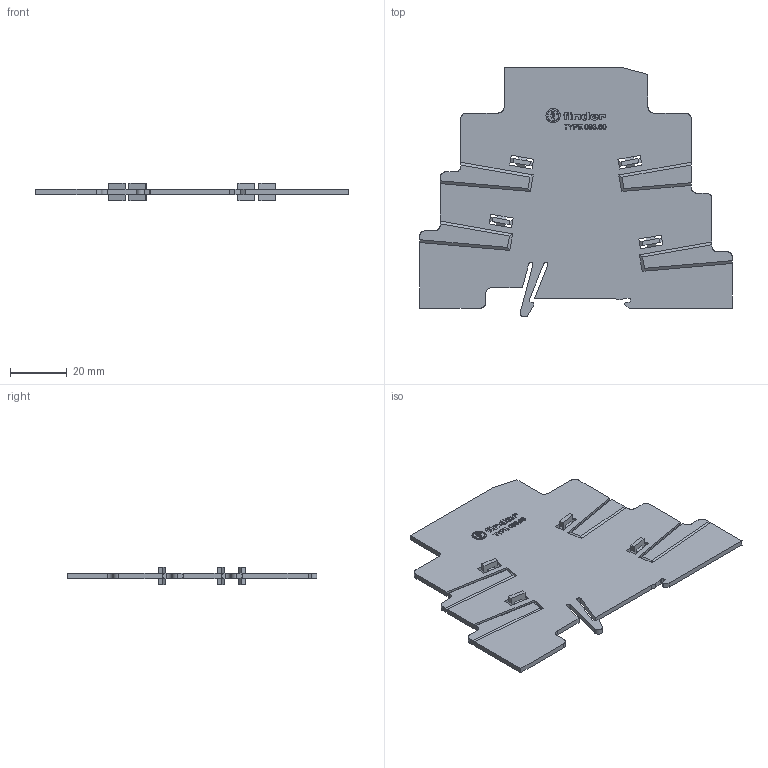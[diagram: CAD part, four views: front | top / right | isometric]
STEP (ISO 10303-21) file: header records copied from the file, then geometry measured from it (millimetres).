
FILE_DESCRIPTION(('STEP AP214'),'2;1');
FILE_NAME('093.60-skin.stp','2010-07-12T17:15:00',(''),(''),'2007.1.106','THINKDESIGN','');
FILE_SCHEMA(('AUTOMOTIVE_DESIGN'));
Length unit declared in the file: millimetre
Products named in the file (1): None
Bounding box: 110.2 x 88.07 x 6.2 mm (x, y, z)
Surface area: 16218.4 mm2 (no closed solid volume)
Topology: 0 solids, 0 shells, 492 faces, 2714 edges, 2714 vertices
Faces by surface type: plane 343, bspline 117, cylinder 32
Full cylindrical faces by diameter (mm): 5.018 x1
Entity records: 31631 total; most frequent: CARTESIAN_POINT 12592, DIRECTION 2979, COMPOSITE_CURVE_SEGMENT 2714, TRIMMED_CURVE 2175, VECTOR 2121, LINE 2121, OUTER_BOUNDARY_CURVE 492, CURVE_BOUNDED_SURFACE 492
